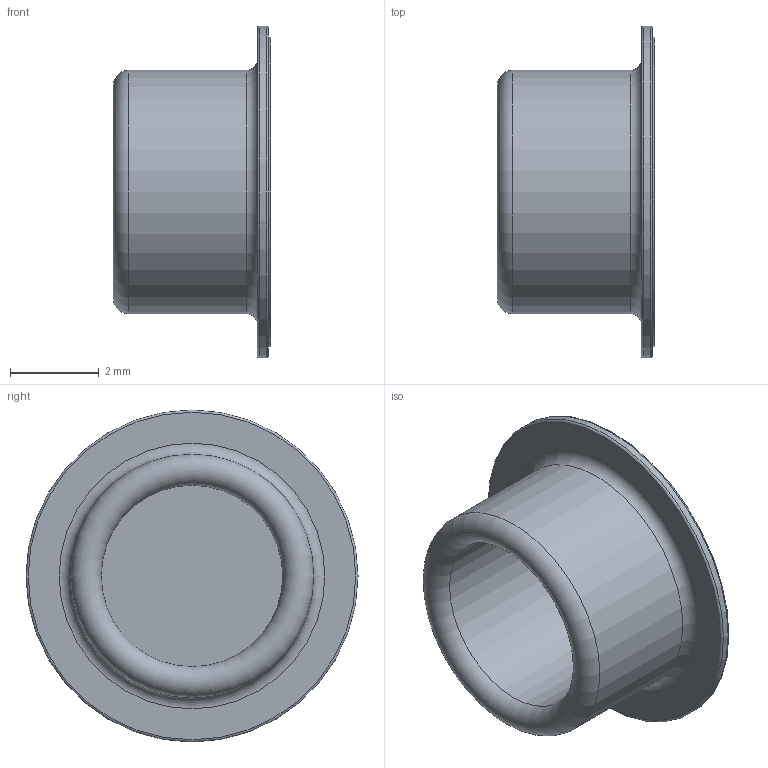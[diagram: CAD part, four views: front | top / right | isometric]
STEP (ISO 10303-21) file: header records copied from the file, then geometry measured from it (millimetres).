
FILE_DESCRIPTION(/* description */ ('STEP AP242 Edition 2','CAx-IF Rec.Pracs.---Representation and Presentation of Product Manufacturing Information (PMI)---4.0---2014-10-13','CAx-IF Rec.Pracs.---3D Tessellated Geometry---0.4---2014-09-14','2;1','CAx-IF Rec.Pracs.---User Defined Attributes---1.5---2016-08-15'),/* implementation_level */ '2;1');
FILE_NAME(/* name */ 'Assembly 1 - 9V_Battery (4)',/* time_stamp */ '2026-04-02T09:55:06Z',/* author */ (''),/* organization */ (''),/* preprocessor_version */ 'ST-DEVELOPER v20',/* originating_system */ 'ONSHAPE BY PTC INC, 1.212',/* authorisation */ ' ');
FILE_SCHEMA (('AP242_MANAGED_MODEL_BASED_3D_ENGINEERING_MIM_LF { 1 0 10303 442 3 1 4 }'));
Length unit declared in the file: metre
Products named in the file (1): 9V_Battery
Bounding box: 3.55 x 7.5 x 7.5 mm (x, y, z)
Volume: 43.4 mm3; surface area: 189.2 mm2
Topology: 1 solids, 1 shells, 12 faces, 22 edges, 14 vertices
Faces by surface type: plane 4, torus 4, cylinder 4
Full cylindrical faces by diameter (mm): 4.1 x1, 5.5 x1, 6.999 x1, 7.499 x1
Entity records: 256 total; most frequent: DIRECTION 48, CARTESIAN_POINT 35, AXIS2_PLACEMENT_3D 24, ORIENTED_EDGE 22, EDGE_LOOP 22, FACE_BOUND 22, ADVANCED_FACE 12, EDGE_CURVE 11
